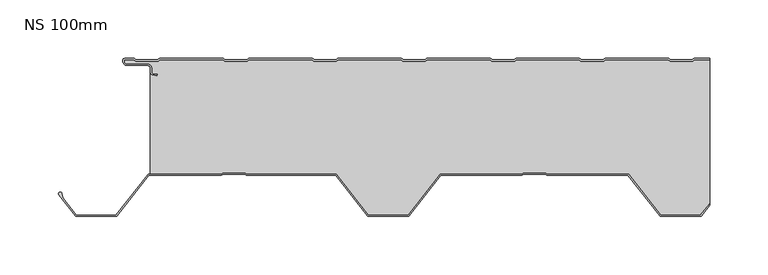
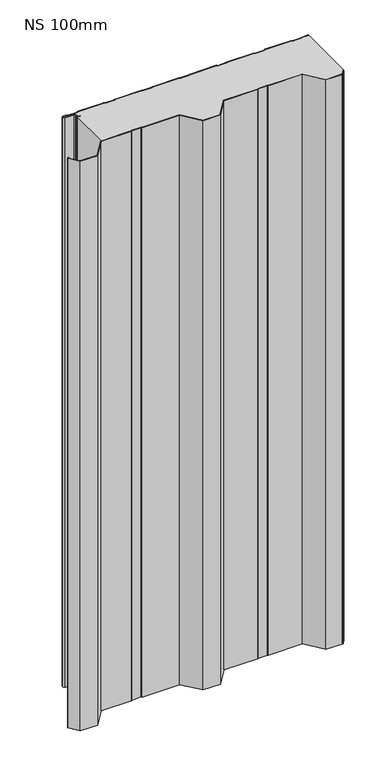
"""IFC4 building model written with IfcOpenShell, lengths in millimetres: plate geometry, KIP-MEX-KC-R19-CP-NS-SL : NS 100mm."""

from ifc_helpers import new_model, si_unit, point, frame_2d, origin, origin_with_axes, place, context, project, spatial, polyline, circle_curve, trimmed, segment, composite_curve, outline, extrude, source, transform, mapped, element, save


def ns_100mm_57d26f19(model_context):
    return source(origin(), model_context, "Body", "SweptSolid", [
        extrude(outline(composite_curve([segment(polyline([(227.1250744, -0.0163932), (239.9963695, -0.0159213), (239.9964061, -1.0159213), (226.9759599, -1.0163987), (225.590371, -2.2166802), (206.2152047, -2.2173907), (204.8295277, -1.0172108), (150.7761124, -1.0191928), (149.3905234, -2.2194743), (130.0153571, -2.2201847), (128.6296802, -1.0200048), (74.5762648, -1.0219868), (73.1906759, -2.2222683), (53.8155096, -2.2229788), (52.4298326, -1.0227989), (-1.6235827, -1.0247809), (-3.0091717, -2.2250624), (-22.384338, -2.2257728), (-23.7700149, -1.0255929), (-77.8234303, -1.0275749), (-79.2090192, -2.2278564), (-98.5841855, -2.2285669), (-99.9698625, -1.028387), (-154.0232778, -1.030369), (-155.4088668, -2.2306505), (-174.7840331, -2.2313609), (-176.16971, -1.031181), (-230.2231254, -1.033163), (-231.6087143, -2.2334445), (-250.9838806, -2.234155), (-252.3695704, -1.033964), (-260.8711318, -1.0342757), (-260.8710768, -2.5341955)]), True, "CONTINUOUS"), segment(trimmed(circle_curve(frame_2d((-258.3711725, -2.5341039)), 2.4999043), [point((-260.8710768, -2.5341955))], [point((-258.3710809, -5.0340081))], True, "CARTESIAN"), True, "CONTINUOUS"), segment(polyline([(-258.3710809, -5.0340081), (-240.3704959, -5.0333481)]), True, "CONTINUOUS"), segment(trimmed(circle_curve(frame_2d((-240.3703859, -8.033707)), 3.0003589), [point((-240.3704959, -5.0333481))], [point((-237.3700278, -8.031496))], False, "CARTESIAN"), True, "CONTINUOUS"), segment(polyline([(-237.3700278, -8.031496), (-237.3698959, -11.6278092)]), True, "CONTINUOUS"), segment(trimmed(circle_curve(frame_2d((-235.8691206, -11.6277542)), 1.5007756), [point((-237.3698959, -11.6278092))], [point((-236.1285479, -13.1059372))], True, "CARTESIAN"), True, "CONTINUOUS"), segment(polyline([(-236.1285479, -13.1059372), (-232.5861902, -13.7276357), (-232.7590525, -14.7125822), (-236.3014108, -14.0908834)]), True, "CONTINUOUS"), segment(trimmed(circle_curve(frame_2d((-235.8691212, -11.6277538)), 2.5007763), [point((-236.3014108, -14.0908834))], [point((-238.369897, -11.6293201))], False, "CARTESIAN"), True, "CONTINUOUS"), segment(polyline([(-238.369897, -11.6293201), (-238.3700289, -8.0321373)]), True, "CONTINUOUS"), segment(trimmed(circle_curve(frame_2d((-240.3703845, -8.0337098)), 2.0003562), [point((-238.3700289, -8.0321373))], [point((-240.3704578, -6.0333536))], True, "CARTESIAN"), True, "CONTINUOUS"), segment(polyline([(-240.3704578, -6.0333536), (-258.3710553, -6.0340136)]), True, "CONTINUOUS"), segment(trimmed(circle_curve(frame_2d((-258.3711836, -2.5340983)), 3.4999153), [point((-258.3710553, -6.0340136))], [point((-261.8710989, -2.5342266))], False, "CARTESIAN"), True, "CONTINUOUS"), segment(polyline([(-261.8710989, -2.5342266), (-261.8711356, -1.534303)]), True, "CONTINUOUS"), segment(trimmed(circle_curve(frame_2d((-260.3711561, -1.534248)), 1.4999795), [point((-261.8711356, -1.534303))], [point((-260.3712111, -0.0342685))], False, "CARTESIAN"), True, "CONTINUOUS"), segment(polyline([(-260.3712111, -0.0342685), (-252.5187454, -0.0339805)]), True, "CONTINUOUS"), segment(trimmed(circle_curve(frame_2d((-252.5186941, -1.4339777)), 1.3999972), [point((-252.5187454, -0.0339805))], [point((-251.602116, -0.3757354))], False, "CARTESIAN"), True, "CONTINUOUS"), segment(polyline([(-251.602116, -0.3757354), (-250.6110368, -1.2341413), (-231.9816314, -1.2334582), (-230.9906152, -0.3749797)]), True, "CONTINUOUS"), segment(trimmed(circle_curve(frame_2d((-230.0739596, -1.4331547)), 1.3999972), [point((-230.9906152, -0.3749797))], [point((-230.0740109, -0.0331575))], False, "CARTESIAN"), True, "CONTINUOUS"), segment(polyline([(-230.0740109, -0.0331575), (-176.3188978, -0.0311865)]), True, "CONTINUOUS"), segment(trimmed(circle_curve(frame_2d((-176.3188465, -1.4311837)), 1.3999972), [point((-176.3188978, -0.0311865))], [point((-175.4022684, -0.3729414))], False, "CARTESIAN"), True, "CONTINUOUS"), segment(polyline([(-175.4022684, -0.3729414), (-174.4111893, -1.2313472), (-155.7817839, -1.2306642), (-154.7907677, -0.3721856)]), True, "CONTINUOUS"), segment(trimmed(circle_curve(frame_2d((-153.874112, -1.4303607)), 1.3999972), [point((-154.7907677, -0.3721856))], [point((-153.8741633, -0.0303635))], False, "CARTESIAN"), True, "CONTINUOUS"), segment(polyline([(-153.8741633, -0.0303635), (-100.1190503, -0.0283924)]), True, "CONTINUOUS"), segment(trimmed(circle_curve(frame_2d((-100.118999, -1.4283896)), 1.3999972), [point((-100.1190503, -0.0283924))], [point((-99.2024209, -0.3701473))], False, "CARTESIAN"), True, "CONTINUOUS"), segment(polyline([(-99.2024209, -0.3701473), (-98.2113418, -1.2285532), (-79.5819363, -1.2278701), (-78.5909202, -0.3693916)]), True, "CONTINUOUS"), segment(trimmed(circle_curve(frame_2d((-77.6742645, -1.4275666)), 1.3999972), [point((-78.5909202, -0.3693916))], [point((-77.6743158, -0.0275694))], False, "CARTESIAN"), True, "CONTINUOUS"), segment(polyline([(-77.6743158, -0.0275694), (-23.9192027, -0.0255984)]), True, "CONTINUOUS"), segment(trimmed(circle_curve(frame_2d((-23.9191514, -1.4255956)), 1.3999972), [point((-23.9192027, -0.0255984))], [point((-23.0025733, -0.3673533))], False, "CARTESIAN"), True, "CONTINUOUS"), segment(polyline([(-23.0025733, -0.3673533), (-22.0114942, -1.2257591), (-3.3820888, -1.225076), (-2.3910726, -0.3665975)]), True, "CONTINUOUS"), segment(trimmed(circle_curve(frame_2d((-1.4744169, -1.4247726)), 1.3999972), [point((-2.3910726, -0.3665975))], [point((-1.4744683, -0.0247754))], False, "CARTESIAN"), True, "CONTINUOUS"), segment(polyline([(-1.4744683, -0.0247754), (52.2806448, -0.0228043)]), True, "CONTINUOUS"), segment(trimmed(circle_curve(frame_2d((52.2806961, -1.4228015)), 1.3999972), [point((52.2806448, -0.0228043))], [point((53.1972742, -0.3645592))], False, "CARTESIAN"), True, "CONTINUOUS"), segment(polyline([(53.1972742, -0.3645592), (54.1883533, -1.2229651), (72.8177588, -1.222282), (73.8087749, -0.3638035)]), True, "CONTINUOUS"), segment(trimmed(circle_curve(frame_2d((74.7254306, -1.4219785)), 1.3999972), [point((73.8087749, -0.3638035))], [point((74.7253793, -0.0219813))], False, "CARTESIAN"), True, "CONTINUOUS"), segment(polyline([(74.7253793, -0.0219813), (128.4804924, -0.0200103)]), True, "CONTINUOUS"), segment(trimmed(circle_curve(frame_2d((128.4805437, -1.4200075)), 1.3999972), [point((128.4804924, -0.0200103))], [point((129.3971218, -0.3617652))], False, "CARTESIAN"), True, "CONTINUOUS"), segment(polyline([(129.3971218, -0.3617652), (130.3882009, -1.220171), (149.0176063, -1.2194879), (150.0086225, -0.3610094)]), True, "CONTINUOUS"), segment(trimmed(circle_curve(frame_2d((150.9252782, -1.4191845)), 1.3999972), [point((150.0086225, -0.3610094))], [point((150.9252268, -0.0191873))], False, "CARTESIAN"), True, "CONTINUOUS"), segment(polyline([(150.9252268, -0.0191873), (204.6803399, -0.0172162)]), True, "CONTINUOUS"), segment(trimmed(circle_curve(frame_2d((204.6803912, -1.4172134)), 1.3999972), [point((204.6803399, -0.0172162))], [point((205.5969693, -0.3589711))], False, "CARTESIAN"), True, "CONTINUOUS"), segment(polyline([(205.5969693, -0.3589711), (206.5880484, -1.217377), (225.2174539, -1.2166939), (226.20847, -0.3582153)]), True, "CONTINUOUS"), segment(trimmed(circle_curve(frame_2d((227.1251257, -1.4163904)), 1.3999972), [point((226.20847, -0.3582153))], [point((227.1250744, -0.0163932))], False, "CARTESIAN"), True, "CONTINUOUS")], self_intersect=False)), origin_with_axes(), (0.0, 0.0, 1.0), 1224.3718713),
        extrude(outline(composite_curve([segment(polyline([(-314.0514565, -115.3743988), (-313.3501987, -119.3468053), (-301.8079514, -134.0358259), (-267.7799839, -134.0345782), (-240.2812374, -99.0335319), (-177.8440581, -99.0312425), (-176.4298117, -98.0311895), (-157.22229, -98.0304852), (-155.8079703, -99.0304345), (-79.3089933, -99.0276295), (-51.8076802, -134.0266591), (-17.7797127, -134.0254113), (9.7190337, -99.024365), (79.1871118, -99.0218178), (80.6013583, -98.0217649), (99.8088799, -98.0210606), (101.2231997, -99.0210098), (170.6912778, -99.0184626), (198.192591, -134.0174922), (232.2205584, -134.0162445), (240.0009198, -124.1132189), (240.0009791, -125.7318093), (232.7066303, -135.0162266), (197.7065924, -135.01751), (170.2052792, -100.0184804), (100.9054116, -100.0210215), (99.4910918, -99.0210722), (80.9192197, -99.0217532), (79.5049733, -100.0218062), (10.2051057, -100.0243472), (-17.2936408, -135.0253935), (-52.2936788, -135.0266769), (-79.7949919, -100.0276473), (-156.1257584, -100.0304461), (-157.5400781, -99.0304969), (-176.1119503, -99.0311779), (-177.5261967, -100.0312308), (-239.7951655, -100.0335141), (-267.2939119, -135.0345604), (-302.2939499, -135.0358437), (-316.6619777, -116.7506476)]), True, "CONTINUOUS"), segment(trimmed(circle_curve(frame_2d((-315.482533, -115.8238709)), 1.5000016), [point((-316.6619777, -116.7506476))], [point((-314.0514565, -115.3743988))], False, "CARTESIAN"), True, "CONTINUOUS")], self_intersect=False)), origin_with_axes(), (0.0, 0.0, 1.0), 1224.3718713),
        extrude(outline(composite_curve([segment(polyline([(-238.3666921, -99.0334617), (-238.369897, -11.6293311)]), True, "CONTINUOUS"), segment(trimmed(circle_curve(frame_2d((-235.8691212, -11.6277649)), 2.5007762), [point((-238.369897, -11.6293311))], [point((-236.3014108, -14.0908945))], True, "CARTESIAN"), True, "CONTINUOUS"), segment(polyline([(-236.3014108, -14.0908945), (-232.7590525, -14.7125933), (-232.5861902, -13.7276468), (-236.1285478, -13.1059482)]), True, "CONTINUOUS"), segment(trimmed(circle_curve(frame_2d((-235.8691205, -11.6277653)), 1.5007755), [point((-236.1285478, -13.1059482))], [point((-237.369896, -11.6278203))], False, "CARTESIAN"), True, "CONTINUOUS"), segment(polyline([(-237.369896, -11.6278203), (-237.3700279, -8.0315071)]), True, "CONTINUOUS"), segment(trimmed(circle_curve(frame_2d((-240.3703859, -8.033718)), 3.0003589), [point((-237.3700279, -8.0315071))], [point((-240.3704959, -5.0333592))], True, "CARTESIAN"), True, "CONTINUOUS"), segment(polyline([(-240.3704959, -5.0333592), (-258.3710809, -5.0340192)]), True, "CONTINUOUS"), segment(trimmed(circle_curve(frame_2d((-258.3711725, -2.5341149)), 2.4999043), [point((-258.3710809, -5.0340192))], [point((-260.8710768, -2.5342066))], False, "CARTESIAN"), True, "CONTINUOUS"), segment(polyline([(-260.8710768, -2.5342066), (-260.8711318, -1.0342784), (-252.3695672, -1.0339667), (-250.9838806, -2.234155), (-231.6087143, -2.2334445), (-230.2231253, -1.033163), (-176.16971, -1.031181), (-174.784033, -2.2313609), (-155.4088667, -2.2306505), (-154.0232778, -1.030369), (-99.9698624, -1.028387), (-98.5841855, -2.2285669), (-79.2090192, -2.2278564), (-77.8234302, -1.0275749), (-23.7700149, -1.0255929), (-22.3843379, -2.2257728), (-3.0091716, -2.2250624), (-1.6235827, -1.0247809), (52.4298327, -1.0227989), (53.8155096, -2.2229788), (73.1906759, -2.2222683), (74.5762649, -1.0219868), (128.6296802, -1.0200048), (130.0153572, -2.2201847), (149.3905235, -2.2194743), (150.7761124, -1.0191928), (204.8295278, -1.0172108), (206.2152047, -2.2173907), (225.590371, -2.2166802), (226.97596, -1.0163987), (239.9964061, -1.0159213), (240.0009198, -124.1132189), (232.2205584, -134.0162445), (198.192591, -134.0174922), (170.6912778, -99.0184626), (101.2231997, -99.0210098), (99.8088799, -98.0210606), (80.6013583, -98.0217649), (79.1871118, -99.0218178), (9.7190337, -99.024365), (-17.7797127, -134.0254113), (-51.8076802, -134.0266591), (-79.3089933, -99.0276295), (-155.8079703, -99.0304345), (-157.22229, -98.0304852), (-176.4298117, -98.0311895), (-177.8440581, -99.0312425), (-238.3666921, -99.0334617)]), True, "CONTINUOUS")], self_intersect=False)), origin_with_axes(), (0.0, 0.0, 1.0), 1224.3718713),
    ])


if __name__ == "__main__":
    model = new_model("IFC4")
    model_context = context("Model", 3, world=origin())
    ifc_project = project(units=[si_unit("LENGTHUNIT", "METRE", prefix="MILLI")], contexts=[model_context])
    site = spatial("IfcSite", under=ifc_project)
    building = spatial("IfcBuilding", under=site)
    placement = place(None, origin())
    ns_100mm_shape = ns_100mm_57d26f19(model_context)
    element("IfcPlate", 1, ObjectType="KIP-MEX-KC-R19-CP-NS-SL : NS 100mm", at=placement, inside=building, context=model_context, shape_type="MappedRepresentation", body=[
        mapped(ns_100mm_shape, transform((0.0, 0.0, 0.0), x_axis=(1.0, 0.0, 0.0), y_axis=(0.0, 1.0, 0.0), z_axis=(0.0, 0.0, 1.0))),
    ])
    save(model, "model.ifc")
